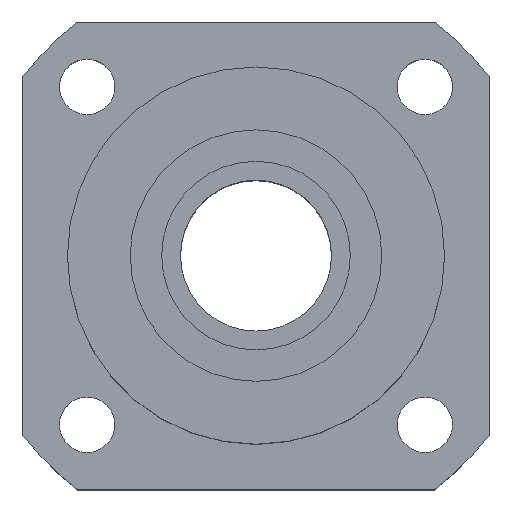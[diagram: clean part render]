
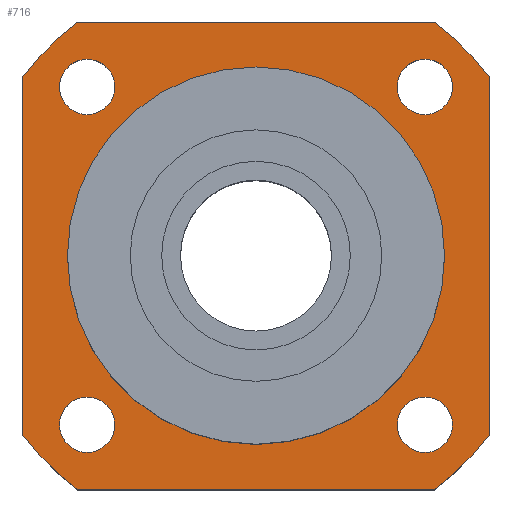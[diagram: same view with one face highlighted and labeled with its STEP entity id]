
A CAD part, top view. The second image highlights one B-rep face of the part: STEP entity #716.
In plain terms, the highlighted planar face has unit normal (0, 0, 1).
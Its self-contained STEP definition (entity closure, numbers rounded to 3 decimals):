
#35=LINE($,#1340,#67);
#38=LINE($,#1348,#70);
#41=LINE($,#1356,#73);
#44=LINE($,#1363,#76);
#67=VECTOR($,#1000,70.993);
#70=VECTOR($,#1009,70.993);
#73=VECTOR($,#1018,70.993);
#76=VECTOR($,#1027,70.993);
#190=FACE_BOUND($,#278,.T.);
#191=FACE_BOUND($,#279,.T.);
#192=FACE_BOUND($,#280,.T.);
#193=FACE_BOUND($,#281,.T.);
#194=FACE_BOUND($,#282,.T.);
#195=FACE_BOUND($,#283,.T.);
#278=EDGE_LOOP($,(#637));
#279=EDGE_LOOP($,(#638));
#280=EDGE_LOOP($,(#639));
#281=EDGE_LOOP($,(#640));
#282=EDGE_LOOP($,(#641));
#283=EDGE_LOOP($,(#642,#643,#644,#645,#646,#647,#648,#649));
#320=CIRCLE($,#788,5.5);
#321=CIRCLE($,#790,5.5);
#322=CIRCLE($,#792,5.5);
#323=CIRCLE($,#794,5.5);
#325=CIRCLE($,#797,37.5);
#326=CIRCLE($,#800,58.5);
#327=CIRCLE($,#803,58.5);
#328=CIRCLE($,#806,58.5);
#329=CIRCLE($,#809,58.5);
#384=VERTEX_POINT($,#1315);
#385=VERTEX_POINT($,#1318);
#386=VERTEX_POINT($,#1321);
#387=VERTEX_POINT($,#1324);
#389=VERTEX_POINT($,#1329);
#390=VERTEX_POINT($,#1333);
#391=VERTEX_POINT($,#1335);
#392=VERTEX_POINT($,#1339);
#393=VERTEX_POINT($,#1343);
#394=VERTEX_POINT($,#1347);
#395=VERTEX_POINT($,#1351);
#396=VERTEX_POINT($,#1355);
#397=VERTEX_POINT($,#1359);
#460=EDGE_CURVE($,#384,#384,#320,.T.);
#461=EDGE_CURVE($,#385,#385,#321,.T.);
#462=EDGE_CURVE($,#386,#386,#322,.T.);
#463=EDGE_CURVE($,#387,#387,#323,.T.);
#465=EDGE_CURVE($,#389,#389,#325,.T.);
#467=EDGE_CURVE($,#391,#390,#326,.T.);
#469=EDGE_CURVE($,#392,#391,#35,.T.);
#471=EDGE_CURVE($,#393,#392,#327,.T.);
#473=EDGE_CURVE($,#394,#393,#38,.T.);
#475=EDGE_CURVE($,#395,#394,#328,.T.);
#477=EDGE_CURVE($,#396,#395,#41,.T.);
#479=EDGE_CURVE($,#397,#396,#329,.T.);
#481=EDGE_CURVE($,#390,#397,#44,.T.);
#637=ORIENTED_EDGE($,*,*,#460,.T.);
#638=ORIENTED_EDGE($,*,*,#461,.T.);
#639=ORIENTED_EDGE($,*,*,#462,.T.);
#640=ORIENTED_EDGE($,*,*,#463,.T.);
#641=ORIENTED_EDGE($,*,*,#465,.T.);
#642=ORIENTED_EDGE($,*,*,#481,.T.);
#643=ORIENTED_EDGE($,*,*,#479,.T.);
#644=ORIENTED_EDGE($,*,*,#477,.T.);
#645=ORIENTED_EDGE($,*,*,#475,.T.);
#646=ORIENTED_EDGE($,*,*,#473,.T.);
#647=ORIENTED_EDGE($,*,*,#471,.T.);
#648=ORIENTED_EDGE($,*,*,#469,.T.);
#649=ORIENTED_EDGE($,*,*,#467,.T.);
#670=PLANE($,#811);
#716=ADVANCED_FACE($,(#190,#191,#192,#193,#194,#195),#670,.T.);
#788=AXIS2_PLACEMENT_3D($,#1316,#970,#971);
#790=AXIS2_PLACEMENT_3D($,#1319,#974,#975);
#792=AXIS2_PLACEMENT_3D($,#1322,#978,#979);
#794=AXIS2_PLACEMENT_3D($,#1325,#982,#983);
#797=AXIS2_PLACEMENT_3D($,#1330,#988,#989);
#800=AXIS2_PLACEMENT_3D($,#1336,#995,#996);
#803=AXIS2_PLACEMENT_3D($,#1344,#1004,#1005);
#806=AXIS2_PLACEMENT_3D($,#1352,#1013,#1014);
#809=AXIS2_PLACEMENT_3D($,#1360,#1022,#1023);
#811=AXIS2_PLACEMENT_3D($,#1364,#1028,#1029);
#970=DIRECTION('center_axis',(0.,0.,-1.));
#971=DIRECTION('ref_axis',(-1.,0.,0.));
#974=DIRECTION('center_axis',(0.,0.,-1.));
#975=DIRECTION('ref_axis',(-1.,0.,0.));
#978=DIRECTION('center_axis',(0.,0.,-1.));
#979=DIRECTION('ref_axis',(-1.,0.,0.));
#982=DIRECTION('center_axis',(0.,0.,-1.));
#983=DIRECTION('ref_axis',(-1.,0.,0.));
#988=DIRECTION('center_axis',(0.,0.,-1.));
#989=DIRECTION('ref_axis',(-1.,0.,0.));
#995=DIRECTION('center_axis',(0.,0.,1.));
#996=DIRECTION('ref_axis',(-0.795,-0.607,0.));
#1000=DIRECTION($,(0.,1.,0.));
#1004=DIRECTION('center_axis',(0.,0.,1.));
#1005=DIRECTION('ref_axis',(-0.607,0.795,0.));
#1009=DIRECTION($,(1.,0.,0.));
#1013=DIRECTION('center_axis',(0.,0.,1.));
#1014=DIRECTION('ref_axis',(0.795,0.607,0.));
#1018=DIRECTION($,(0.,-1.,0.));
#1022=DIRECTION('center_axis',(0.,0.,1.));
#1023=DIRECTION('ref_axis',(0.607,-0.795,0.));
#1027=DIRECTION($,(-1.,0.,0.));
#1028=DIRECTION('center_axis',(0.,0.,1.));
#1029=DIRECTION('ref_axis',(1.,0.,0.));
#1315=CARTESIAN_POINT('',(-28.088,-33.588,15.));
#1316=CARTESIAN_POINT('Origin',(-33.588,-33.588,15.));
#1318=CARTESIAN_POINT('',(39.088,33.588,15.));
#1319=CARTESIAN_POINT('Origin',(33.588,33.588,15.));
#1321=CARTESIAN_POINT('',(39.088,-33.588,15.));
#1322=CARTESIAN_POINT('Origin',(33.588,-33.588,15.));
#1324=CARTESIAN_POINT('',(-28.088,33.588,15.));
#1325=CARTESIAN_POINT('Origin',(-33.588,33.588,15.));
#1329=CARTESIAN_POINT('',(37.5,0.,15.));
#1330=CARTESIAN_POINT('Origin',(0.,0.,15.));
#1333=CARTESIAN_POINT('',(35.496,46.5,15.));
#1335=CARTESIAN_POINT('',(46.5,35.496,15.));
#1336=CARTESIAN_POINT('Origin',(0.,0.,15.));
#1339=CARTESIAN_POINT('',(46.5,-35.496,15.));
#1340=CARTESIAN_POINT($,(46.5,35.496,15.));
#1343=CARTESIAN_POINT('',(35.496,-46.5,15.));
#1344=CARTESIAN_POINT('Origin',(0.,0.,15.));
#1347=CARTESIAN_POINT('',(-35.496,-46.5,15.));
#1348=CARTESIAN_POINT($,(35.496,-46.5,15.));
#1351=CARTESIAN_POINT('',(-46.5,-35.496,15.));
#1352=CARTESIAN_POINT('Origin',(0.,0.,15.));
#1355=CARTESIAN_POINT('',(-46.5,35.496,15.));
#1356=CARTESIAN_POINT($,(-46.5,-35.496,15.));
#1359=CARTESIAN_POINT('',(-35.496,46.5,15.));
#1360=CARTESIAN_POINT('Origin',(0.,0.,15.));
#1363=CARTESIAN_POINT($,(-35.496,46.5,15.));
#1364=CARTESIAN_POINT('Origin',(0.,0.,
15.));
